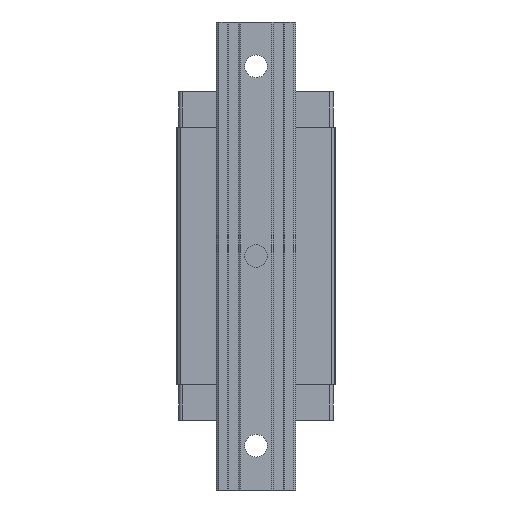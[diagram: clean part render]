
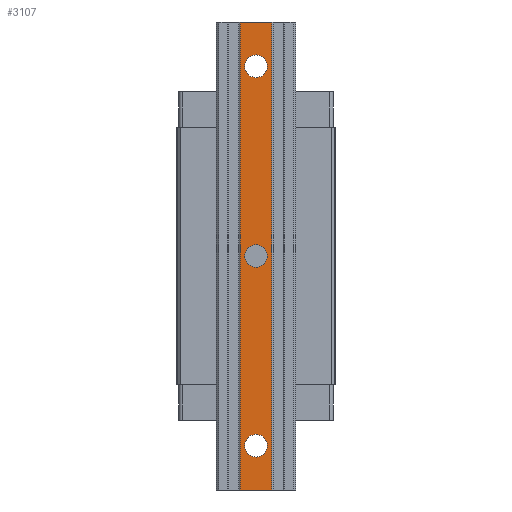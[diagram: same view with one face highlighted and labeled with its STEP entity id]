
A CAD part, front view. The second image highlights one B-rep face of the part: STEP entity #3107.
In plain terms, the highlighted planar face has unit normal (0, -1, 0).
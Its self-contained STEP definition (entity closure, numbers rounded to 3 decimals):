
#12 = EDGE_CURVE ( 'NONE', #11719, #6558, #10889, .T. ) ;
#70 = FACE_BOUND ( 'NONE', #6477, .T. ) ;
#290 = ORIENTED_EDGE ( 'NONE', *, *, #6321, .T. ) ;
#346 = CARTESIAN_POINT ( 'NONE',  ( -12.5, -53., -185. ) ) ;
#412 = CARTESIAN_POINT ( 'NONE',  ( 0., -53., 0. ) ) ;
#688 = CARTESIAN_POINT ( 'NONE',  ( 0., -53., -141. ) ) ;
#942 = FACE_BOUND ( 'NONE', #10217, .T. ) ;
#978 = AXIS2_PLACEMENT_3D ( 'NONE', #10098, #10164, #9186 ) ;
#1400 = EDGE_CURVE ( 'NONE', #2470, #3062, #8192, .T. ) ;
#1532 = EDGE_CURVE ( 'NONE', #3062, #2470, #2963, .T. ) ;
#1682 = EDGE_CURVE ( 'NONE', #5112, #6558, #9062, .T. ) ;
#1804 = CIRCLE ( 'NONE', #3035, 9. ) ;
#1904 = CARTESIAN_POINT ( 'NONE',  ( -12.5, -53., -185. ) ) ;
#1951 = DIRECTION ( 'NONE',  ( 1., 0., 0. ) ) ;
#2457 = CARTESIAN_POINT ( 'NONE',  ( 0., -53., 9. ) ) ;
#2470 = VERTEX_POINT ( 'NONE', #9546 ) ;
#2808 = VERTEX_POINT ( 'NONE', #2457 ) ;
#2862 = ORIENTED_EDGE ( 'NONE', *, *, #1682, .T. ) ;
#2963 = CIRCLE ( 'NONE', #10288, 9. ) ;
#3035 = AXIS2_PLACEMENT_3D ( 'NONE', #6779, #12919, #3973 ) ;
#3062 = VERTEX_POINT ( 'NONE', #8988 ) ;
#3107 = ADVANCED_FACE ( 'NONE', ( #942, #70, #5855, #9850 ), #12051, .T. ) ;
#3247 = ORIENTED_EDGE ( 'NONE', *, *, #1400, .T. ) ;
#3312 = ORIENTED_EDGE ( 'NONE', *, *, #1532, .T. ) ;
#3764 = LINE ( 'NONE', #9786, #12651 ) ;
#3796 = VERTEX_POINT ( 'NONE', #10562 ) ;
#3973 = DIRECTION ( 'NONE',  ( 0., 0., 1. ) ) ;
#4103 = CARTESIAN_POINT ( 'NONE',  ( 0., -53., 150. ) ) ;
#4146 = DIRECTION ( 'NONE',  ( 0., -1., 0. ) ) ;
#4866 = AXIS2_PLACEMENT_3D ( 'NONE', #4103, #10254, #6395 ) ;
#4867 = DIRECTION ( 'NONE',  ( 0., 1., 0. ) ) ;
#5112 = VERTEX_POINT ( 'NONE', #10493 ) ;
#5542 = CARTESIAN_POINT ( 'NONE',  ( 12.5, -53., 185. ) ) ;
#5598 = DIRECTION ( 'NONE',  ( 0., 1., 0. ) ) ;
#5604 = AXIS2_PLACEMENT_3D ( 'NONE', #5838, #4867, #11838 ) ;
#5706 = VECTOR ( 'NONE', #11066, 1000. ) ;
#5789 = ORIENTED_EDGE ( 'NONE', *, *, #9528, .T. ) ;
#5838 = CARTESIAN_POINT ( 'NONE',  ( 0., -53., -150. ) ) ;
#5855 = FACE_BOUND ( 'NONE', #11134, .T. ) ;
#6172 = VERTEX_POINT ( 'NONE', #12806 ) ;
#6185 = AXIS2_PLACEMENT_3D ( 'NONE', #412, #5598, #12450 ) ;
#6321 = EDGE_CURVE ( 'NONE', #3796, #12901, #1804, .T. ) ;
#6390 = ORIENTED_EDGE ( 'NONE', *, *, #12, .F. ) ;
#6395 = DIRECTION ( 'NONE',  ( 0., 0., 1. ) ) ;
#6477 = EDGE_LOOP ( 'NONE', ( #3312, #3247 ) ) ;
#6520 = ORIENTED_EDGE ( 'NONE', *, *, #11683, .T. ) ;
#6558 = VERTEX_POINT ( 'NONE', #5542 ) ;
#6656 = CARTESIAN_POINT ( 'NONE',  ( 0., -53., -9. ) ) ;
#6735 = EDGE_CURVE ( 'NONE', #2808, #10146, #8700, .T. ) ;
#6779 = CARTESIAN_POINT ( 'NONE',  ( 0., -53., -150. ) ) ;
#6823 = CIRCLE ( 'NONE', #978, 9. ) ;
#7325 = VECTOR ( 'NONE', #1951, 1000. ) ;
#7861 = LINE ( 'NONE', #1904, #9505 ) ;
#8138 = DIRECTION ( 'NONE',  ( 0., 0., -1. ) ) ;
#8192 = CIRCLE ( 'NONE', #4866, 9. ) ;
#8280 = CARTESIAN_POINT ( 'NONE',  ( 12.5, -53., -185. ) ) ;
#8494 = CARTESIAN_POINT ( 'NONE',  ( -12.5, -53., 185. ) ) ;
#8700 = CIRCLE ( 'NONE', #6185, 9. ) ;
#8988 = CARTESIAN_POINT ( 'NONE',  ( 0., -53., 159. ) ) ;
#8991 = EDGE_CURVE ( 'NONE', #6172, #5112, #3764, .T. ) ;
#9062 = LINE ( 'NONE', #8280, #5706 ) ;
#9130 = ORIENTED_EDGE ( 'NONE', *, *, #8991, .T. ) ;
#9140 = AXIS2_PLACEMENT_3D ( 'NONE', #346, #4146, #8138 ) ;
#9186 = DIRECTION ( 'NONE',  ( 0., 0., 1. ) ) ;
#9505 = VECTOR ( 'NONE', #12877, 1000. ) ;
#9528 = EDGE_CURVE ( 'NONE', #10146, #2808, #6823, .T. ) ;
#9546 = CARTESIAN_POINT ( 'NONE',  ( 0., -53., 141. ) ) ;
#9547 = DIRECTION ( 'NONE',  ( 0., 0., 1. ) ) ;
#9685 = EDGE_CURVE ( 'NONE', #12901, #3796, #12057, .T. ) ;
#9723 = DIRECTION ( 'NONE',  ( 1., 0., 0. ) ) ;
#9786 = CARTESIAN_POINT ( 'NONE',  ( 0., -53., -185. ) ) ;
#9850 = FACE_OUTER_BOUND ( 'NONE', #10789, .T. ) ;
#10098 = CARTESIAN_POINT ( 'NONE',  ( 0., -53., 0. ) ) ;
#10146 = VERTEX_POINT ( 'NONE', #6656 ) ;
#10164 = DIRECTION ( 'NONE',  ( 0., 1., 0. ) ) ;
#10217 = EDGE_LOOP ( 'NONE', ( #10770, #5789 ) ) ;
#10254 = DIRECTION ( 'NONE',  ( 0., 1., 0. ) ) ;
#10288 = AXIS2_PLACEMENT_3D ( 'NONE', #10686, #10512, #9547 ) ;
#10493 = CARTESIAN_POINT ( 'NONE',  ( 12.5, -53., -185. ) ) ;
#10512 = DIRECTION ( 'NONE',  ( 0., 1., 0. ) ) ;
#10562 = CARTESIAN_POINT ( 'NONE',  ( 0., -53., -159. ) ) ;
#10686 = CARTESIAN_POINT ( 'NONE',  ( 0., -53., 150. ) ) ;
#10770 = ORIENTED_EDGE ( 'NONE', *, *, #6735, .T. ) ;
#10789 = EDGE_LOOP ( 'NONE', ( #6520, #9130, #2862, #6390 ) ) ;
#10889 = LINE ( 'NONE', #11086, #7325 ) ;
#11066 = DIRECTION ( 'NONE',  ( 0., 0., 1. ) ) ;
#11086 = CARTESIAN_POINT ( 'NONE',  ( 0., -53., 185. ) ) ;
#11134 = EDGE_LOOP ( 'NONE', ( #11703, #290 ) ) ;
#11683 = EDGE_CURVE ( 'NONE', #11719, #6172, #7861, .T. ) ;
#11703 = ORIENTED_EDGE ( 'NONE', *, *, #9685, .T. ) ;
#11719 = VERTEX_POINT ( 'NONE', #8494 ) ;
#11838 = DIRECTION ( 'NONE',  ( 0., 0., 1. ) ) ;
#12051 = PLANE ( 'NONE',  #9140 ) ;
#12057 = CIRCLE ( 'NONE', #5604, 9. ) ;
#12450 = DIRECTION ( 'NONE',  ( 0., 0., 1. ) ) ;
#12651 = VECTOR ( 'NONE', #9723, 1000. ) ;
#12806 = CARTESIAN_POINT ( 'NONE',  ( -12.5, -53., -185. ) ) ;
#12877 = DIRECTION ( 'NONE',  ( 0., 0., -1. ) ) ;
#12901 = VERTEX_POINT ( 'NONE', #688 ) ;
#12919 = DIRECTION ( 'NONE',  ( 0., 1., 0. ) ) ;
